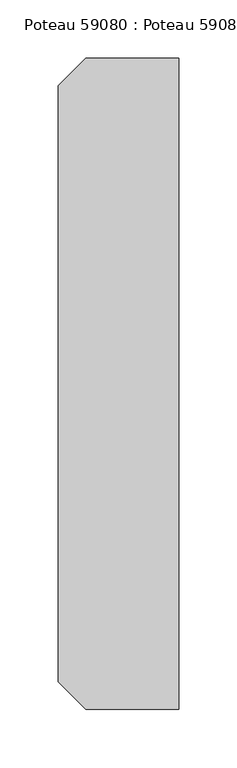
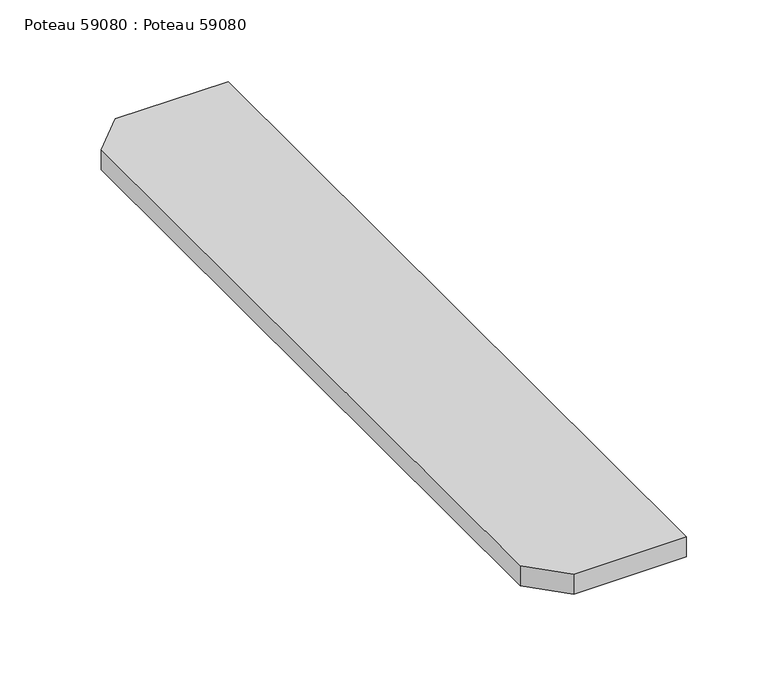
"""IFC4 building model written with IfcOpenShell, lengths in millimetres: beam geometry, Poteau 59080 : Poteau 59080."""

import ifcopenshell
import ifcopenshell.guid

model = None  # the IFC model being written
_history = None  # IfcOwnerHistory: only IFC2X3 demands one
_inside = {}  # id of a spatial element -> (the spatial element, [elements in it])
_under = {}  # id of a project, library or spatial element -> (it, [spatial elements below it])
_declared = {}  # id of a project -> (the project, [libraries it declares])
_typed = {}  # id of a type object -> (the type object, [elements of that type])
_made_of = {}  # id of a material, layer set ... -> (it, [elements and type objects made of it])


def new_model(schema):
    """Start an empty IFC model of exactly this schema.

    Asked for "IFC4X3", IfcOpenShell would pick the latest addendum, in which some entities
    have other attributes; the version numbers below select the first issue.
    IFC2X3 requires an IfcOwnerHistory on every rooted entity: one is made here for all.
    """
    global model, _history
    if schema == "IFC4X3":
        model = ifcopenshell.file(schema_version=(4, 3, 0, 0))
    else:
        model = ifcopenshell.file(schema=schema)
    _inside.clear()
    _under.clear()
    _declared.clear()
    _typed.clear()
    _made_of.clear()
    _history = None
    if model.schema == "IFC2X3":
        org = make("IfcOrganization", Name="unknown")
        user = make(
            "IfcPersonAndOrganization",
            ThePerson=make("IfcPerson", FamilyName="unknown"),
            TheOrganization=org,
        )
        app = make(
            "IfcApplication",
            ApplicationDeveloper=org,
            Version="unknown",
            ApplicationFullName="unknown",
            ApplicationIdentifier="unknown",
        )
        _history = make(
            "IfcOwnerHistory",
            OwningUser=user,
            OwningApplication=app,
            ChangeAction="ADDED",
            CreationDate=0,
        )
    return model


def make(cls, **values):
    """One entity of the class cls with the attributes given. An attribute that is None is left unset."""
    return model.create_entity(
        cls, **{name: value for name, value in values.items() if value is not None}
    )


def rooted(cls, **values):
    """An entity with a GlobalId (a new one), such as an element, a storey or a relation."""
    return make(cls, GlobalId=ifcopenshell.guid.new(), OwnerHistory=_history, **values)


def si_unit(unit_type, name, prefix=None):
    """IfcSIUnit, for example si_unit("LENGTHUNIT", "METRE", prefix="MILLI")."""
    return make("IfcSIUnit", UnitType=unit_type, Prefix=prefix, Name=name)


def assignment(units):
    """IfcUnitAssignment: the units of a project."""
    return None if units is None else make("IfcUnitAssignment", Units=units)


def point(xyz):
    """IfcCartesianPoint."""
    return None if xyz is None else make("IfcCartesianPoint", Coordinates=xyz)


def direction(xyz):
    """IfcDirection."""
    return None if xyz is None else make("IfcDirection", DirectionRatios=xyz)


def frame(location, z_axis=None, x_axis=None):
    """IfcAxis2Placement3D, a coordinate frame: its origin and axes. An axis left out is left unset."""
    return make(
        "IfcAxis2Placement3D",
        Location=point(location),
        Axis=direction(z_axis),
        RefDirection=direction(x_axis),
    )


def origin():
    """The frame at (0, 0, 0) with its axes left unset."""
    return frame((0.0, 0.0, 0.0))


def place(relative_to, where):
    """IfcLocalPlacement: puts the frame where relative to a parent placement (None: the world)."""
    return make(
        "IfcLocalPlacement", PlacementRelTo=relative_to, RelativePlacement=where
    )


def context(
    kind, dimensions, precision=None, world=None, true_north=None, identifier=None
):
    """IfcGeometricRepresentationContext, for example the 3D "Model" context."""
    return make(
        "IfcGeometricRepresentationContext",
        ContextIdentifier=identifier,
        ContextType=kind,
        CoordinateSpaceDimension=dimensions,
        Precision=precision,
        WorldCoordinateSystem=world,
        TrueNorth=true_north,
    )


def project(units=None, contexts=None):
    """IfcProject with its units and contexts."""
    return rooted(
        "IfcProject",
        Name="project",
        RepresentationContexts=contexts,
        UnitsInContext=assignment(units),
    )


def spatial(cls, under=None, at=None, **own):
    """A site, building, storey or space (cls), placed at a placement, below another one or the project."""
    s = rooted(cls, ObjectPlacement=at, **own)
    if under is not None:
        _under.setdefault(under.id(), (under, []))[1].append(s)
    return s


def polyline(points):
    """IfcPolyline through the points."""
    return make("IfcPolyline", Points=[point(p) for p in points])


def outline(outer, holes=None, kind="AREA"):
    """IfcArbitraryClosedProfileDef: a profile drawn as a closed curve; with holes, ...WithVoids."""
    if holes is None:
        return make("IfcArbitraryClosedProfileDef", ProfileType=kind, OuterCurve=outer)
    return make(
        "IfcArbitraryProfileDefWithVoids",
        ProfileType=kind,
        OuterCurve=outer,
        InnerCurves=holes,
    )


def extrude(swept, where, along, depth):
    """IfcExtrudedAreaSolid: the profile swept, set in the frame where, extruded along a direction by depth."""
    return make(
        "IfcExtrudedAreaSolid",
        SweptArea=swept,
        Position=where,
        ExtrudedDirection=direction(along),
        Depth=depth,
    )


def shape(context_of_items, identifier, shape_type, items):
    """IfcShapeRepresentation: the items that make up one representation, for example the "Body"."""
    return make(
        "IfcShapeRepresentation",
        ContextOfItems=context_of_items,
        RepresentationIdentifier=identifier,
        RepresentationType=shape_type,
        Items=items,
    )


def source(mapping_origin, context_of_items, identifier, shape_type, items):
    """IfcRepresentationMap: a shape defined once, which mapped items show again and again."""
    return make(
        "IfcRepresentationMap",
        MappingOrigin=mapping_origin,
        MappedRepresentation=shape(context_of_items, identifier, shape_type, items),
    )


def transform(
    local_origin,
    x_axis=None,
    y_axis=None,
    z_axis=None,
    scale=None,
    scale2=None,
    scale3=None,
    uniform=True,
):
    """IfcCartesianTransformationOperator3D, or its non-uniform kind. x_axis, y_axis, z_axis: its Axis1, 2, 3."""
    if uniform:
        return make(
            "IfcCartesianTransformationOperator3D",
            Axis1=direction(x_axis),
            Axis2=direction(y_axis),
            LocalOrigin=point(local_origin),
            Scale=scale,
            Axis3=direction(z_axis),
        )
    return make(
        "IfcCartesianTransformationOperator3DnonUniform",
        Axis1=direction(x_axis),
        Axis2=direction(y_axis),
        LocalOrigin=point(local_origin),
        Scale=scale,
        Axis3=direction(z_axis),
        Scale2=scale2,
        Scale3=scale3,
    )


def mapped(mapping_source, mapping_target):
    """IfcMappedItem: shows the shape of a source again, moved by a transform."""
    return make(
        "IfcMappedItem", MappingSource=mapping_source, MappingTarget=mapping_target
    )


def made_of(thing, what):
    """Note that an element or type object is made of a material, layer set ...; save() writes the relation."""
    if what is not None:
        _made_of.setdefault(what.id(), (what, []))[1].append(thing)
    return thing


def element(
    cls,
    number,
    at=None,
    inside=None,
    cuts=None,
    type_object=None,
    material=None,
    context=None,
    identifier="Body",
    shape_type=None,
    held_by="IfcProductDefinitionShape",
    body=None,
    shapes=None,
    **own,
):
    """One element of the class cls, such as IfcWall. Its Tag is "e" and its number.

    at: its placement. inside: the storey or other place that contains it. cuts: it is an
    opening in that element (IfcRelVoidsElement). A single representation is given by context,
    identifier, shape_type and body (its items); several are given by shapes. held_by: the class
    of the entity that holds the representations. save() writes the other relations.
    """
    e = rooted(cls, Tag="e%d" % number, ObjectPlacement=at, **own)
    if body is not None:
        shapes = [shape(context, identifier, shape_type, body)]
    if shapes is not None:
        e.Representation = make(held_by, Representations=shapes)
    if inside is not None:
        _inside.setdefault(inside.id(), (inside, []))[1].append(e)
    if cuts is not None:
        rooted(
            "IfcRelVoidsElement", RelatingBuildingElement=cuts, RelatedOpeningElement=e
        )
    if type_object is not None:
        _typed.setdefault(type_object.id(), (type_object, []))[1].append(e)
    return made_of(e, material)


def aggregate(whole, parts):
    """IfcRelAggregates: a whole, such as a stair, and the parts it consists of."""
    return rooted("IfcRelAggregates", RelatingObject=whole, RelatedObjects=parts)


def save(model, path):
    """Write the relations noted so far, then the file.

    IfcRelAggregates (storeys below a building ...), IfcRelContainedInSpatialStructure (elements
    in a storey), IfcRelDefinesByType, IfcRelAssociatesMaterial and IfcRelDeclares: one each for
    every whole, place, type object, material and project.
    """
    for whole, parts in _under.values():
        aggregate(whole, parts)
    for where, things in _inside.values():
        rooted(
            "IfcRelContainedInSpatialStructure",
            RelatedElements=things,
            RelatingStructure=where,
        )
    for kind, things in _typed.values():
        rooted("IfcRelDefinesByType", RelatedObjects=things, RelatingType=kind)
    for what, things in _made_of.values():
        rooted("IfcRelAssociatesMaterial", RelatedObjects=things, RelatingMaterial=what)
    for by, libraries in _declared.values():
        rooted("IfcRelDeclares", RelatingContext=by, RelatedDefinitions=libraries)
    model.write(path)


def poteau_59080_poteau_59080_f49cc1dc(model_context):
    return source(origin(), model_context, "Body", "SweptSolid", [
        extrude(outline(polyline([(109.9999999, -144.55), (109.9999999, -706.55), (29.9999999, -706.55), (5.9999999, -682.55), (5.9999999, -168.55), (29.9999999, -144.55), (109.9999999, -144.55)])), frame((0.0, 0.0, 6830.14), z_axis=(0.0, 0.0, 1.0), x_axis=(1.0, 0.0, 0.0)), (0.0, 0.0, 1.0), 15.0),
    ])


if __name__ == "__main__":
    model = new_model("IFC4")
    model_context = context("Model", 3, world=origin())
    ifc_project = project(units=[si_unit("LENGTHUNIT", "METRE", prefix="MILLI")], contexts=[model_context])
    site = spatial("IfcSite", under=ifc_project)
    building = spatial("IfcBuilding", under=site)
    placement = place(None, origin())
    poteau_59080_poteau_59080_shape = poteau_59080_poteau_59080_f49cc1dc(model_context)
    element("IfcBeam", 1, ObjectType="Poteau 59080 : Poteau 59080", at=placement, inside=building, context=model_context, shape_type="MappedRepresentation", body=[
        mapped(poteau_59080_poteau_59080_shape, transform((0.0, 0.0, 0.0), x_axis=(1.0, 0.0, 0.0), y_axis=(0.0, 1.0, 0.0), z_axis=(0.0, 0.0, 1.0))),
    ])
    save(model, "model.ifc")
